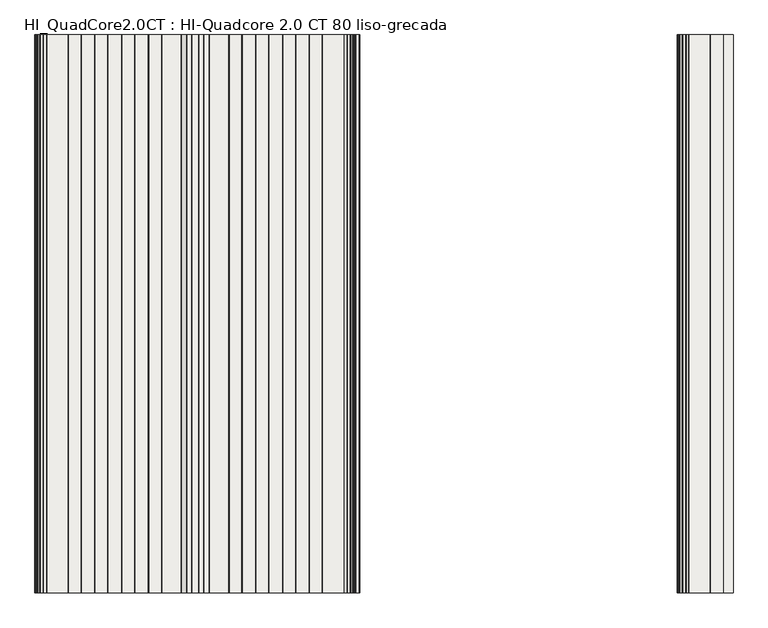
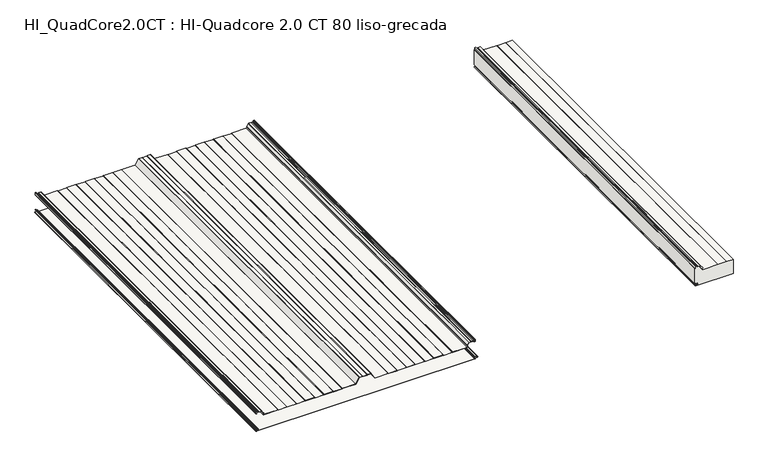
"""IFC4 building model written with IfcOpenShell, lengths in millimetres: slab geometry, HI_QuadCore2.0CT : HI-Quadcore 2.0 CT 80 liso-grecada."""

from ifc_helpers import new_model, si_unit, point, frame, frame_2d, origin, place, context, project, spatial, polyline, circle_curve, trimmed, segment, composite_curve, outline, extrude, source, transform, mapped, element, save
from ifc_brep_helpers import plane_surface, cylinder_surface, revolved_surface, advanced_brep


def hi_quadcore2_0ct_hi_quadcore_2_0_ct_80_liso_grecada_cbc21f39(model_context):
    return source(origin(), model_context, "Body", "SolidModel", [
        advanced_brep(
        [(2305.1475465, 0.0, 95.7425833), (2301.3824194, 0.0, 97.9163804), (2300.0, 0.0, 97.9163804), (2300.0, 0.0, 16.239302), (2307.510215, 0.0, 16.239302), (2307.510215, 0.0, 15.4391074), (2303.6125693, 0.0, 15.4391074), (2302.4319301, 0.0, 14.2584682), (2303.4276302, 0.0, 13.0866965), (2311.8278581, 0.0, 11.7547343), (2311.7995989, 0.0, 4.4809044), (2301.8467032, 0.0, 2.9844289), (2302.0100062, 0.0, 0.8), (2500.0, 0.0, 0.8), (2500.0, 0.0, 79.2), (2467.3816122, 0.0, 79.2), (2465.6495614, 0.0, 78.2), (2420.6152775, 0.0, 78.2), (2418.8832267, 0.0, 79.2), (2342.7795617, 0.0, 79.2), (2339.9577511, 0.0, 86.2744555), (2340.9081159, 0.0, 87.0692788), (2341.1089583, 0.0, 88.5361221), (2331.7709236, 0.0, 102.1230469), (2330.8643848, 0.0, 102.6), (2321.5371875, 0.0, 102.6), (2319.8324194, 0.0, 101.8110374), (2318.1276514, 0.0, 102.6), (2311.4016791, 0.0, 102.6), (2309.2490397, 0.0, 104.0383476), (2307.3922843, 0.0, 108.5209518), (2306.3760168, 0.0, 109.2), (2302.7824194, 0.0, 109.2), (2301.6824194, 0.0, 108.1), (2301.6824194, 0.0, 98.6669358), (2305.5475465, 0.0, 96.4354036), (2305.1475465, 2000.0, 95.7425833), (2305.5475465, 2000.0, 96.4354036), (2301.6824194, 2000.0, 98.6669358), (2301.6824194, 2000.0, 108.1), (2302.7824194, 2000.0, 109.2), (2306.3760168, 2000.0, 109.2), (2307.3922843, 2000.0, 108.5209518), (2309.2490397, 2000.0, 104.0383476), (2311.4016791, 2000.0, 102.6), (2318.1276514, 2000.0, 102.6), (2319.8324194, 2000.0, 101.8110374), (2321.5371875, 2000.0, 102.6), (2330.8643848, 2000.0, 102.6), (2331.7709236, 2000.0, 102.1230469), (2341.1089583, 2000.0, 88.5361221), (2340.9081159, 2000.0, 87.0692788), (2339.9577511, 2000.0, 86.2744555), (2342.7795617, 2000.0, 79.2), (2418.8832267, 2000.0, 79.2), (2420.6152775, 2000.0, 78.2), (2465.6495614, 2000.0, 78.2), (2467.3816122, 2000.0, 79.2), (2500.0, 2000.0, 79.2), (2500.0, 2000.0, 0.8), (2302.0100062, 2000.0, 0.8), (2301.8467032, 2000.0, 2.9844289), (2311.7995989, 2000.0, 4.4809044), (2311.8278581, 2000.0, 11.7547343), (2303.4273037, 2000.0, 13.0846342), (2302.4319301, 2000.0, 14.2584682), (2303.6125693, 2000.0, 15.4391074), (2307.510215, 2000.0, 15.4391074), (2307.510215, 2000.0, 16.239302), (2300.0, 2000.0, 16.239302), (2300.0, 2000.0, 97.9163804), (2301.3824194, 2000.0, 97.9163804)],
        [
            (0, 1),
            (1, 2),
            (2, 3),
            (3, 4),
            (4, 5),
            (5, 6),
            (6, 7, circle_curve(frame((2303.6125693, 0.0, 14.2584682), z_axis=(0.0, -1.0, 0.0), x_axis=(1.0, 0.0, 0.0)), 1.1806391)),
            (7, 8, circle_curve(frame((2303.6121809, 0.0, 14.2524448), z_axis=(0.0, -1.0, 0.0), x_axis=(1.0, 0.0, 0.0)), 1.1802661)),
            (8, 9),
            (9, 10, circle_curve(frame((2311.2524398, 0.0, 8.12), z_axis=(0.0, 1.0, 0.0), x_axis=(1.0, 0.0, 0.0)), 3.68)),
            (10, 11),
            (11, 12, circle_curve(frame((2302.0100062, 0.0, 1.8983185), z_axis=(0.0, -1.0, 0.0), x_axis=(1.0, 0.0, 0.0)), 1.0983185)),
            (12, 13),
            (13, 14),
            (14, 15),
            (15, 16),
            (16, 17),
            (17, 18),
            (18, 19),
            (19, 20, circle_curve(frame((2342.7795617, 0.0, 83.3), z_axis=(0.0, 1.0, 0.0), x_axis=(1.0, 0.0, 0.0)), 4.1)),
            (20, 21),
            (21, 22, circle_curve(frame((2340.2024195, 0.0, 87.9130752), z_axis=(0.0, -1.0, 0.0), x_axis=(1.0, 0.0, 0.0)), 1.1)),
            (22, 23),
            (23, 24, circle_curve(frame((2330.8643848, 0.0, 101.5), z_axis=(0.0, -1.0, 0.0), x_axis=(1.0, 0.0, 0.0)), 1.1)),
            (24, 25),
            (25, 26),
            (26, 27),
            (27, 28),
            (28, 29, circle_curve(frame((2311.4016791, 0.0, 104.93), z_axis=(0.0, 1.0, 0.0), x_axis=(1.0, 0.0, 0.0)), 2.33)),
            (29, 30),
            (30, 31, circle_curve(frame((2306.3760168, 0.0, 108.1), z_axis=(0.0, -1.0, 0.0), x_axis=(1.0, 0.0, 0.0)), 1.1)),
            (31, 32),
            (32, 33, circle_curve(frame((2302.7824194, 0.0, 108.1), z_axis=(0.0, -1.0, 0.0), x_axis=(1.0, 0.0, 0.0)), 1.1)),
            (33, 34),
            (34, 35),
            (35, 0),
            (36, 37),
            (37, 38),
            (38, 39),
            (39, 40, circle_curve(frame((2302.7824194, 2000.0, 108.1), z_axis=(0.0, 1.0, 0.0), x_axis=(1.0, 0.0, 0.0)), 1.1)),
            (40, 41),
            (41, 42, circle_curve(frame((2306.3760168, 2000.0, 108.1), z_axis=(0.0, 1.0, 0.0), x_axis=(1.0, 0.0, 0.0)), 1.1)),
            (42, 43),
            (43, 44, circle_curve(frame((2311.4016791, 2000.0, 104.93), z_axis=(0.0, -1.0, 0.0), x_axis=(1.0, 0.0, 0.0)), 2.33)),
            (44, 45),
            (45, 46),
            (46, 47),
            (47, 48),
            (48, 49, circle_curve(frame((2330.8643848, 2000.0, 101.5), z_axis=(0.0, 1.0, 0.0), x_axis=(1.0, 0.0, 0.0)), 1.1)),
            (49, 50),
            (50, 51, circle_curve(frame((2340.2024195, 2000.0, 87.9130752), z_axis=(0.0, 1.0, 0.0), x_axis=(1.0, 0.0, 0.0)), 1.1)),
            (51, 52),
            (52, 53, circle_curve(frame((2342.7795617, 2000.0, 83.3), z_axis=(0.0, -1.0, 0.0), x_axis=(1.0, 0.0, 0.0)), 4.1)),
            (53, 54),
            (54, 55),
            (55, 56),
            (56, 57),
            (57, 58),
            (58, 59),
            (59, 60),
            (60, 61, circle_curve(frame((2302.0100062, 2000.0, 1.8983185), z_axis=(0.0, 1.0, 0.0), x_axis=(1.0, 0.0, 0.0)), 1.0983185)),
            (61, 62),
            (62, 63, circle_curve(frame((2311.2524398, 2000.0, 8.12), z_axis=(0.0, -1.0, 0.0), x_axis=(1.0, 0.0, 0.0)), 3.68)),
            (63, 64),
            (64, 65, circle_curve(frame((2303.6121809, 2000.0, 14.2524448), z_axis=(0.0, 1.0, 0.0), x_axis=(1.0, 0.0, 0.0)), 1.1802661)),
            (65, 66, circle_curve(frame((2303.6125693, 2000.0, 14.2584682), z_axis=(0.0, 1.0, 0.0), x_axis=(1.0, 0.0, 0.0)), 1.1806391)),
            (66, 67),
            (67, 68),
            (68, 69),
            (69, 70),
            (70, 71),
            (71, 36),
            (0, 36),
            (71, 1),
            (70, 2),
            (69, 3),
            (57, 15),
            (14, 58),
            (56, 16),
            (55, 17),
            (54, 18),
            (53, 19),
            (52, 20),
            (51, 21),
            (50, 22),
            (49, 23),
            (48, 24),
            (47, 25),
            (46, 26),
            (45, 27),
            (44, 28),
            (43, 29),
            (42, 30),
            (41, 31),
            (40, 32),
            (39, 33),
            (38, 34),
            (37, 35),
            (68, 4),
            (67, 5),
            (66, 6),
            (65, 7),
            (64, 8),
            (63, 9),
            (62, 10),
            (61, 11),
            (60, 12),
            (59, 13),
        ],
        [
            plane_surface(frame((2301.3824194, 0.0, 97.9163804), z_axis=(0.0, -1.0, 0.0), x_axis=(-0.8660254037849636, 0.0, 0.4999999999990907))),
            plane_surface(frame((2301.3824194, 2000.0, 97.9163804), z_axis=(0.0, 1.0, 0.0), x_axis=(0.8660254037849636, 0.0, -0.4999999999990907))),
            plane_surface(frame((2305.1475465, 0.0, 95.7425833), z_axis=(0.4999999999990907, 0.0, 0.8660254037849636), x_axis=(0.0, 1.0, 0.0))),
            plane_surface(frame((2301.3824194, 0.0, 97.9163804), z_axis=(0.0, 0.0, 1.0), x_axis=(0.0, 1.0, 0.0))),
            plane_surface(frame((2300.0, 0.0, 97.9163804), z_axis=(-1.0, 0.0, 0.0), x_axis=(0.0, 1.0, 0.0))),
            plane_surface(frame((2514.8832267, 0.0, 79.2), z_axis=(0.0, 0.0, 1.0), x_axis=(0.0, 1.0, 0.0))),
            plane_surface(frame((2467.3816122, 0.0, 79.2), z_axis=(-0.5000000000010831, 0.0, 0.8660254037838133), x_axis=(0.0, 1.0, 0.0))),
            plane_surface(frame((2465.6495614, 0.0, 78.2), z_axis=(0.0, 0.0, 1.0), x_axis=(0.0, 1.0, 0.0))),
            plane_surface(frame((2420.6152775, 0.0, 78.2), z_axis=(0.4999999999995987, 0.0, 0.8660254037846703), x_axis=(0.0, 1.0, 0.0))),
            plane_surface(frame((2418.8832267, 0.0, 79.2), z_axis=(0.0, 0.0, 1.0), x_axis=(0.0, 1.0, 0.0))),
            revolved_surface(polyline([(2346.8795617, 2000.0, 83.3), (2346.8795617, 0.0, 83.3)]), (2342.7795617, 2000.0, 83.3), (0.0, 1.0, 0.0)),
            plane_surface(frame((2339.9577511, 0.0, 86.2744555), z_axis=(0.6415422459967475, 0.0, -0.7670877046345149), x_axis=(0.0, 1.0, 0.0))),
            cylinder_surface(frame((2340.2024195, 2000.0, 87.9130752), z_axis=(0.0, -1.0, 0.0), x_axis=(1.0, 0.0, 0.0)), 1.1),
            plane_surface(frame((2341.1089583, 0.0, 88.5361221), z_axis=(0.8241261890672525, 0.0, 0.5664062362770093), x_axis=(0.0, 1.0, 0.0))),
            cylinder_surface(frame((2330.8643848, 2000.0, 101.5), z_axis=(0.0, -1.0, 0.0), x_axis=(1.0, 0.0, 0.0)), 1.1),
            plane_surface(frame((2330.8643848, 0.0, 102.6), z_axis=(0.0, 0.0, 1.0), x_axis=(0.0, 1.0, 0.0))),
            plane_surface(frame((2321.5371875, 0.0, 102.6), z_axis=(-0.41999999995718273, 0.0, 0.9075241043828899), x_axis=(0.0, 1.0, 0.0))),
            plane_surface(frame((2319.8324194, 0.0, 101.8110374), z_axis=(0.4200000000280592, 0.0, 0.9075241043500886), x_axis=(0.0, 1.0, 0.0))),
            plane_surface(frame((2318.1276514, 0.0, 102.6), z_axis=(0.0, 0.0, 1.0), x_axis=(0.0, 1.0, 0.0))),
            revolved_surface(polyline([(2313.7316791, 2000.0, 104.93), (2313.7316791, 0.0, 104.93)]), (2311.4016791, 2000.0, 104.93), (0.0, 1.0, 0.0)),
            plane_surface(frame((2309.2490397, 0.0, 104.0383476), z_axis=(0.9238795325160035, 0.0, 0.38268343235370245), x_axis=(0.0, 1.0, 0.0))),
            cylinder_surface(frame((2306.3760168, 2000.0, 108.1), z_axis=(0.0, -1.0, 0.0), x_axis=(1.0, 0.0, 0.0)), 1.1),
            plane_surface(frame((2306.3760168, 0.0, 109.2), z_axis=(0.0, 0.0, 1.0), x_axis=(0.0, 1.0, 0.0))),
            cylinder_surface(frame((2302.7824194, 2000.0, 108.1), z_axis=(0.0, -1.0, 0.0), x_axis=(1.0, 0.0, 0.0)), 1.1),
            plane_surface(frame((2301.6824194, 0.0, 108.1), z_axis=(-1.0, 0.0, 0.0), x_axis=(0.0, 1.0, 0.0))),
            plane_surface(frame((2301.6824194, 0.0, 98.6669358), z_axis=(-0.49999999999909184, 0.0, -0.866025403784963), x_axis=(0.0, 1.0, 0.0))),
            plane_surface(frame((2305.5475465, 0.0, 96.4354036), z_axis=(-0.866025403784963, 0.0, 0.4999999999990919), x_axis=(0.0, 1.0, 0.0))),
            plane_surface(frame((2300.0, 0.0, 16.239302), z_axis=(0.0, 0.0, -1.0), x_axis=(0.0, 1.0, 0.0))),
            plane_surface(frame((2307.510215, 0.0, 16.239302), z_axis=(-1.0, 0.0, 0.0), x_axis=(0.0, 1.0, 0.0))),
            plane_surface(frame((2307.510215, 0.0, 15.4391074), z_axis=(0.0, 0.0, 1.0), x_axis=(0.0, 1.0, 0.0))),
            cylinder_surface(frame((2303.6125693, 2000.0, 14.2584682), z_axis=(0.0, -1.0, 0.0), x_axis=(1.0, 0.0, 0.0)), 1.1806391),
            cylinder_surface(frame((2303.6121809, 2000.0, 14.2524448), z_axis=(0.0, -1.0, 0.0), x_axis=(1.0, 0.0, 0.0)), 1.1802661),
            plane_surface(frame((2303.4273037, 0.0, 13.0846342), z_axis=(-0.1563636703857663, 0.0, -0.9876995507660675), x_axis=(0.0, 1.0, 0.0))),
            revolved_surface(polyline([(2314.9324398, 2000.0, 8.12), (2314.9324398, 0.0, 8.12)]), (2311.2524398, 2000.0, 8.12), (0.0, 1.0, 0.0)),
            plane_surface(frame((2311.7995989, 0.0, 4.4809044), z_axis=(-0.14868453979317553, 0.0, 0.9888846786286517), x_axis=(0.0, 1.0, 0.0))),
            cylinder_surface(frame((2302.0100062, 2000.0, 1.8983185), z_axis=(0.0, -1.0, 0.0), x_axis=(1.0, 0.0, 0.0)), 1.0983185),
            plane_surface(frame((2302.0100062, 0.0, 0.8), z_axis=(0.0, 0.0, -1.0), x_axis=(0.0, 1.0, 0.0))),
            plane_surface(frame((2500.0, 0.0, 126.2714688), z_axis=(1.0, 0.0, 0.0), x_axis=(0.0, 1.0, 0.0))),
        ],
        [
            (0, [[1, 2, 3, 4, 5, 6, 7, 8, 9, 10, 11, 12, 13, 14, 15, 16, 17, 18, 19, 20, 21, 22, 23, 24, 25, 26, 27, 28, 29, 30, 31, 32, 33, 34, 35, 36]]),
            (1, [[37, 38, 39, 40, 41, 42, 43, 44, 45, 46, 47, 48, 49, 50, 51, 52, 53, 54, 55, 56, 57, 58, 59, 60, 61, 62, 63, 64, 65, 66, 67, 68, 69, 70, 71, 72]]),
            (2, [[-1, 73, -72, 74]]),
            (3, [[-2, -74, -71, 75]]),
            (4, [[-75, -70, 76, -3]]),
            (5, [[77, -15, 78, -58]]),
            (6, [[-16, -77, -57, 79]]),
            (7, [[-17, -79, -56, 80]]),
            (8, [[-18, -80, -55, 81]]),
            (9, [[-19, -81, -54, 82]]),
            (10, [[-20, -82, -53, 83]]),
            (11, [[-21, -83, -52, 84]]),
            (12, [[-22, -84, -51, 85]]),
            (13, [[-23, -85, -50, 86]]),
            (14, [[-24, -86, -49, 87]]),
            (15, [[-25, -87, -48, 88]]),
            (16, [[-26, -88, -47, 89]]),
            (17, [[-27, -89, -46, 90]]),
            (18, [[-28, -90, -45, 91]]),
            (19, [[-29, -91, -44, 92]]),
            (20, [[-30, -92, -43, 93]]),
            (21, [[-31, -93, -42, 94]]),
            (22, [[-32, -94, -41, 95]]),
            (23, [[-33, -95, -40, 96]]),
            (24, [[-34, -96, -39, 97]]),
            (25, [[-35, -97, -38, 98]]),
            (26, [[-36, -98, -37, -73]]),
            (27, [[-76, -69, 99, -4]]),
            (28, [[-5, -99, -68, 100]]),
            (29, [[-6, -100, -67, 101]]),
            (30, [[-7, -101, -66, 102]]),
            (31, [[-8, -102, -65, 103]]),
            (32, [[-9, -103, -64, 104]]),
            (33, [[-10, -104, -63, 105]]),
            (34, [[-11, -105, -62, 106]]),
            (35, [[-12, -106, -61, 107]]),
            (36, [[-107, -60, 108, -13]]),
            (37, [[-14, -108, -59, -78]]),
        ],
    ),
        advanced_brep(
        [(3.6125412, 0.0, 16.239302), (1.6320413, 0.0, 14.2588021), (3.3026044, 0.0, 12.2960661), (11.7027672, 0.0, 10.9645747), (11.6806488, 0.0, 5.2720118), (1.7277556, 0.0, 3.7755366), (2.0100062, 0.0, 0.0), (1147.9590685, 0.0, 0.0), (1150.1391392, 0.0, 2.1800708), (1152.6636211, 0.0, 5.0353254), (1160.9083654, 0.0, 6.0356531), (1160.9083654, 0.0, 10.2043469), (1150.9419234, 0.0, 11.413338), (1148.6324398, 0.0, 14.0237344), (1147.5187526, 0.0, 16.24), (1142.7624398, 0.0, 16.24), (1142.7624398, 0.0, 15.44), (1147.2282701, 0.0, 15.44), (1147.8324398, 0.0, 14.0237344), (1150.8450446, 0.0, 10.6192254), (1160.7843299, 0.0, 9.4135286), (1160.7843221, 0.0, 6.8264698), (1152.5664905, 0.0, 5.8294074), (1149.3391392, 0.0, 2.1800708), (1147.9590685, 0.0, 0.8), (2.0100062, 0.0, 0.8), (1.8467032, 0.0, 2.9844289), (11.7995989, 0.0, 4.4809044), (11.8278581, 0.0, 11.7547343), (3.4279307, 0.0, 13.084535), (2.4319301, 0.0, 14.2584682), (3.6125693, 0.0, 15.4391074), (7.510215, 0.0, 15.4391074), (7.510215, 0.0, 16.239302), (3.6125412, 2000.0, 16.239302), (7.510215, 2000.0, 16.239302), (7.510215, 2000.0, 15.4391074), (3.6125693, 2000.0, 15.4391074), (2.4319301, 2000.0, 14.2584682), (3.4276302, 2000.0, 13.0866965), (11.8278581, 2000.0, 11.7547343), (11.7995989, 2000.0, 4.4809044), (1.8467032, 2000.0, 2.9844289), (2.0100062, 2000.0, 0.8), (1147.9590685, 2000.0, 0.8), (1149.3391392, 2000.0, 2.1800708), (1152.5664905, 2000.0, 5.8294074), (1160.7843221, 2000.0, 6.8264698), (1160.7843299, 2000.0, 9.4135286), (1150.8450446, 2000.0, 10.6192254), (1147.8324398, 2000.0, 14.0237344), (1147.2282701, 2000.0, 15.44), (1142.7624398, 2000.0, 15.44), (1142.7624398, 2000.0, 16.24), (1147.5187526, 2000.0, 16.24), (1148.6324398, 2000.0, 14.0237344), (1150.9419234, 2000.0, 11.413338), (1160.9083654, 2000.0, 10.2043469), (1160.9083654, 2000.0, 6.0356531), (1152.6636211, 2000.0, 5.0353254), (1150.1391392, 2000.0, 2.1800708), (1147.9590685, 2000.0, 0.0), (2.0100062, 2000.0, 0.0), (1.7277556, 2000.0, 3.7755366), (11.6806488, 2000.0, 5.2720118), (11.7027672, 2000.0, 10.9645747), (3.3028397, 2000.0, 12.2943753), (1.6320413, 2000.0, 14.2588021)],
        [
            (0, 1, circle_curve(frame((3.6125412, 0.0, 14.2588021), z_axis=(0.0, -1.0, 0.0), x_axis=(1.0, 0.0, 0.0)), 1.9804999)),
            (1, 2, circle_curve(frame((3.612237, 0.0, 14.2519163), z_axis=(0.0, -1.0, 0.0), x_axis=(1.0, 0.0, 0.0)), 1.9802076)),
            (2, 3),
            (3, 4, circle_curve(frame((11.2524398, 0.0, 8.12), z_axis=(0.0, 1.0, 0.0), x_axis=(1.0, 0.0, 0.0)), 2.88)),
            (4, 5),
            (5, 6, circle_curve(frame((2.0100062, 0.0, 1.8983185), z_axis=(0.0, -1.0, 0.0), x_axis=(1.0, 0.0, 0.0)), 1.8983185)),
            (6, 7),
            (7, 8, circle_curve(frame((1147.9590685, 0.0, 2.1800708), z_axis=(0.0, -1.0, 0.0), x_axis=(1.0, 0.0, 0.0)), 2.1800708)),
            (8, 9, circle_curve(frame((1153.0160638, 0.0, 2.1800708), z_axis=(0.0, 1.0, 0.0), x_axis=(1.0, 0.0, 0.0)), 2.8769246)),
            (9, 10),
            (10, 11, circle_curve(frame((1160.5224398, 0.0, 8.12), z_axis=(0.0, -1.0, 0.0), x_axis=(1.0, 0.0, 0.0)), 2.1197737)),
            (11, 12),
            (12, 13, circle_curve(frame((1151.2624398, 0.0, 14.0237344), z_axis=(0.0, 1.0, 0.0), x_axis=(1.0, 0.0, 0.0)), 2.63)),
            (13, 14, circle_curve(frame((1145.8703839, 0.0, 14.0237344), z_axis=(0.0, -1.0, 0.0), x_axis=(1.0, 0.0, 0.0)), 2.7620559)),
            (14, 15),
            (15, 16),
            (16, 17),
            (17, 18, circle_curve(frame((1145.8703839, 0.0, 14.0237344), z_axis=(0.0, 1.0, 0.0), x_axis=(1.0, 0.0, 0.0)), 1.9620559)),
            (18, 19, circle_curve(frame((1151.2624398, 0.0, 14.0237344), z_axis=(0.0, -1.0, 0.0), x_axis=(1.0, 0.0, 0.0)), 3.43)),
            (19, 20),
            (20, 21, circle_curve(frame((1160.5224398, 0.0, 8.12), z_axis=(0.0, 1.0, 0.0), x_axis=(1.0, 0.0, 0.0)), 1.3197737)),
            (21, 22),
            (22, 23, circle_curve(frame((1153.0160638, 0.0, 2.1800708), z_axis=(0.0, -1.0, 0.0), x_axis=(1.0, 0.0, 0.0)), 3.6769246)),
            (23, 24, circle_curve(frame((1147.9590685, 0.0, 2.1800708), z_axis=(0.0, 1.0, 0.0), x_axis=(1.0, 0.0, 0.0)), 1.3800708)),
            (24, 25),
            (25, 26, circle_curve(frame((2.0100062, 0.0, 1.8983185), z_axis=(0.0, 1.0, 0.0), x_axis=(1.0, 0.0, 0.0)), 1.0983185)),
            (26, 27),
            (27, 28, circle_curve(frame((11.2524398, 0.0, 8.12), z_axis=(0.0, -1.0, 0.0), x_axis=(1.0, 0.0, 0.0)), 3.68)),
            (28, 29),
            (29, 30, circle_curve(frame((3.6121809, 0.0, 14.2524448), z_axis=(0.0, 1.0, 0.0), x_axis=(1.0, 0.0, 0.0)), 1.1802661)),
            (30, 31, circle_curve(frame((3.6125693, 0.0, 14.2584682), z_axis=(0.0, 1.0, 0.0), x_axis=(1.0, 0.0, 0.0)), 1.1806391)),
            (31, 32),
            (32, 33),
            (33, 0),
            (34, 35),
            (35, 36),
            (36, 37),
            (37, 38, circle_curve(frame((3.6125693, 2000.0, 14.2584682), z_axis=(0.0, -1.0, 0.0), x_axis=(1.0, 0.0, 0.0)), 1.1806391)),
            (38, 39, circle_curve(frame((3.6121809, 2000.0, 14.2524448), z_axis=(0.0, -1.0, 0.0), x_axis=(1.0, 0.0, 0.0)), 1.1802661)),
            (39, 40),
            (40, 41, circle_curve(frame((11.2524398, 2000.0, 8.12), z_axis=(0.0, 1.0, 0.0), x_axis=(1.0, 0.0, 0.0)), 3.68)),
            (41, 42),
            (42, 43, circle_curve(frame((2.0100062, 2000.0, 1.8983185), z_axis=(0.0, -1.0, 0.0), x_axis=(1.0, 0.0, 0.0)), 1.0983185)),
            (43, 44),
            (44, 45, circle_curve(frame((1147.9590685, 2000.0, 2.1800708), z_axis=(0.0, -1.0, 0.0), x_axis=(1.0, 0.0, 0.0)), 1.3800708)),
            (45, 46, circle_curve(frame((1153.0160638, 2000.0, 2.1800708), z_axis=(0.0, 1.0, 0.0), x_axis=(1.0, 0.0, 0.0)), 3.6769246)),
            (46, 47),
            (47, 48, circle_curve(frame((1160.5224398, 2000.0, 8.12), z_axis=(0.0, -1.0, 0.0), x_axis=(1.0, 0.0, 0.0)), 1.3197737)),
            (48, 49),
            (49, 50, circle_curve(frame((1151.2624398, 2000.0, 14.0237344), z_axis=(0.0, 1.0, 0.0), x_axis=(1.0, 0.0, 0.0)), 3.43)),
            (50, 51, circle_curve(frame((1145.8703839, 2000.0, 14.0237344), z_axis=(0.0, -1.0, 0.0), x_axis=(1.0, 0.0, 0.0)), 1.9620559)),
            (51, 52),
            (52, 53),
            (53, 54),
            (54, 55, circle_curve(frame((1145.8703839, 2000.0, 14.0237344), z_axis=(0.0, 1.0, 0.0), x_axis=(1.0, 0.0, 0.0)), 2.7620559)),
            (55, 56, circle_curve(frame((1151.2624398, 2000.0, 14.0237344), z_axis=(0.0, -1.0, 0.0), x_axis=(1.0, 0.0, 0.0)), 2.63)),
            (56, 57),
            (57, 58, circle_curve(frame((1160.5224398, 2000.0, 8.12), z_axis=(0.0, 1.0, 0.0), x_axis=(1.0, 0.0, 0.0)), 2.1197737)),
            (58, 59),
            (59, 60, circle_curve(frame((1153.0160638, 2000.0, 2.1800708), z_axis=(0.0, -1.0, 0.0), x_axis=(1.0, 0.0, 0.0)), 2.8769246)),
            (60, 61, circle_curve(frame((1147.9590685, 2000.0, 2.1800708), z_axis=(0.0, 1.0, 0.0), x_axis=(1.0, 0.0, 0.0)), 2.1800708)),
            (61, 62),
            (62, 63, circle_curve(frame((2.0100062, 2000.0, 1.8983185), z_axis=(0.0, 1.0, 0.0), x_axis=(1.0, 0.0, 0.0)), 1.8983185)),
            (63, 64),
            (64, 65, circle_curve(frame((11.2524398, 2000.0, 8.12), z_axis=(0.0, -1.0, 0.0), x_axis=(1.0, 0.0, 0.0)), 2.88)),
            (65, 66),
            (66, 67, circle_curve(frame((3.612237, 2000.0, 14.2519163), z_axis=(0.0, 1.0, 0.0), x_axis=(1.0, 0.0, 0.0)), 1.9802076)),
            (67, 34, circle_curve(frame((3.6125412, 2000.0, 14.2588021), z_axis=(0.0, 1.0, 0.0), x_axis=(1.0, 0.0, 0.0)), 1.9804999)),
            (0, 34),
            (67, 1),
            (66, 2),
            (65, 3),
            (64, 4),
            (63, 5),
            (62, 6),
            (61, 7),
            (60, 8),
            (59, 9),
            (58, 10),
            (57, 11),
            (56, 12),
            (55, 13),
            (54, 14),
            (53, 15),
            (52, 16),
            (51, 17),
            (50, 18),
            (49, 19),
            (48, 20),
            (47, 21),
            (46, 22),
            (45, 23),
            (44, 24),
            (43, 25),
            (42, 26),
            (41, 27),
            (40, 28),
            (39, 29),
            (38, 30),
            (37, 31),
            (36, 32),
            (35, 33),
        ],
        [
            plane_surface(frame((5.5930411, 0.0, 14.2588021), z_axis=(0.0, -1.0, 0.0), x_axis=(0.0, 0.0, 1.0))),
            plane_surface(frame((5.5930411, 2000.0, 14.2588021), z_axis=(0.0, 1.0, 0.0), x_axis=(0.0, 0.0, -1.0))),
            cylinder_surface(frame((3.6125412, 2000.0, 14.2588021), z_axis=(0.0, -1.0, 0.0), x_axis=(1.0, 0.0, 0.0)), 1.9804999),
            cylinder_surface(frame((3.612237, 2000.0, 14.2519163), z_axis=(0.0, -1.0, 0.0), x_axis=(1.0, 0.0, 0.0)), 1.9802076),
            plane_surface(frame((3.3028397, 0.0, 12.2943753), z_axis=(-0.15636367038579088, 0.0, -0.9876995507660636), x_axis=(0.0, 1.0, 0.0))),
            revolved_surface(polyline([(14.1324398, 2000.0, 8.12), (14.1324398, 0.0, 8.12)]), (11.2524398, 2000.0, 8.12), (0.0, 1.0, 0.0)),
            plane_surface(frame((11.6806488, 0.0, 5.2720118), z_axis=(-0.14868453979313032, 0.0, 0.9888846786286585), x_axis=(0.0, 1.0, 0.0))),
            cylinder_surface(frame((2.0100062, 2000.0, 1.8983185), z_axis=(0.0, -1.0, 0.0), x_axis=(1.0, 0.0, 0.0)), 1.8983185),
            plane_surface(frame((2.0100062, 0.0, 0.0), z_axis=(0.0, 0.0, -1.0), x_axis=(0.0, 1.0, 0.0))),
            cylinder_surface(frame((1147.9590685, 2000.0, 2.1800708), z_axis=(0.0, -1.0, 0.0), x_axis=(1.0, 0.0, 0.0)), 2.1800708),
            revolved_surface(polyline([(1155.8929884, 2000.0, 2.1800708), (1155.8929884, 0.0, 2.1800708)]), (1153.0160638, 2000.0, 2.1800708), (0.0, 1.0, 0.0)),
            plane_surface(frame((1152.6636211, 0.0, 5.0353254), z_axis=(0.12044584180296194, 0.0, -0.9927198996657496), x_axis=(0.0, 1.0, 0.0))),
            cylinder_surface(frame((1160.5224398, 2000.0, 8.12), z_axis=(0.0, -1.0, 0.0), x_axis=(1.0, 0.0, 0.0)), 2.1197737),
            plane_surface(frame((1160.9083654, 0.0, 10.2043469), z_axis=(0.12042339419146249, 0.0, 0.9927226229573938), x_axis=(0.0, 1.0, 0.0))),
            revolved_surface(polyline([(1153.8924398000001, 2000.0, 14.0237344), (1153.8924398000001, 0.0, 14.0237344)]), (1151.2624398, 2000.0, 14.0237344), (0.0, 1.0, 0.0)),
            cylinder_surface(frame((1145.8703839, 2000.0, 14.0237344), z_axis=(0.0, -1.0, 0.0), x_axis=(1.0, 0.0, 0.0)), 2.7620559),
            plane_surface(frame((1147.5187526, 0.0, 16.24), z_axis=(0.0, 0.0, 1.0), x_axis=(0.0, 1.0, 0.0))),
            plane_surface(frame((1142.7624398, 0.0, 16.24), z_axis=(-1.0, 0.0, 0.0), x_axis=(0.0, 1.0, 0.0))),
            plane_surface(frame((1142.7624398, 0.0, 15.44), z_axis=(0.0, 0.0, -1.0), x_axis=(0.0, 1.0, 0.0))),
            revolved_surface(polyline([(1147.8324398, 2000.0, 14.0237344), (1147.8324398, 0.0, 14.0237344)]), (1145.8703839, 2000.0, 14.0237344), (0.0, 1.0, 0.0)),
            cylinder_surface(frame((1151.2624398, 2000.0, 14.0237344), z_axis=(0.0, -1.0, 0.0), x_axis=(1.0, 0.0, 0.0)), 3.43),
            plane_surface(frame((1150.8450446, 0.0, 10.6192254), z_axis=(-0.12042339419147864, 0.0, -0.9927226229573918), x_axis=(0.0, 1.0, 0.0))),
            revolved_surface(polyline([(1161.8422135, 2000.0, 8.12), (1161.8422135, 0.0, 8.12)]), (1160.5224398, 2000.0, 8.12), (0.0, 1.0, 0.0)),
            plane_surface(frame((1160.7843221, 0.0, 6.8264698), z_axis=(-0.12044584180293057, 0.0, 0.9927198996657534), x_axis=(0.0, 1.0, 0.0))),
            cylinder_surface(frame((1153.0160638, 2000.0, 2.1800708), z_axis=(0.0, -1.0, 0.0), x_axis=(1.0, 0.0, 0.0)), 3.6769246),
            revolved_surface(polyline([(1149.3391393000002, 2000.0, 2.1800708), (1149.3391393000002, 0.0, 2.1800708)]), (1147.9590685, 2000.0, 2.1800708), (0.0, 1.0, 0.0)),
            plane_surface(frame((1147.9590685, 0.0, 0.8), z_axis=(0.0, 0.0, 1.0), x_axis=(0.0, 1.0, 0.0))),
            revolved_surface(polyline([(3.1083247, 2000.0, 1.8983185), (3.1083247, 0.0, 1.8983185)]), (2.0100062, 2000.0, 1.8983185), (0.0, 1.0, 0.0)),
            plane_surface(frame((1.8467032, 0.0, 2.9844289), z_axis=(0.14868453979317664, 0.0, -0.9888846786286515), x_axis=(0.0, 1.0, 0.0))),
            cylinder_surface(frame((11.2524398, 2000.0, 8.12), z_axis=(0.0, -1.0, 0.0), x_axis=(1.0, 0.0, 0.0)), 3.68),
            plane_surface(frame((11.8278581, 0.0, 11.7547343), z_axis=(0.15636367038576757, 0.0, 0.9876995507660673), x_axis=(0.0, 1.0, 0.0))),
            revolved_surface(polyline([(4.792447, 2000.0, 14.2524448), (4.792447, 0.0, 14.2524448)]), (3.6121809, 2000.0, 14.2524448), (0.0, 1.0, 0.0)),
            revolved_surface(polyline([(4.7932084, 2000.0, 14.2584682), (4.7932084, 0.0, 14.2584682)]), (3.6125693, 2000.0, 14.2584682), (0.0, 1.0, 0.0)),
            plane_surface(frame((3.6125693, 0.0, 15.4391074), z_axis=(0.0, 0.0, -1.0), x_axis=(0.0, 1.0, 0.0))),
            plane_surface(frame((7.510215, 0.0, 15.4391074), z_axis=(1.0, 0.0, 0.0), x_axis=(0.0, 1.0, 0.0))),
            plane_surface(frame((7.510215, 0.0, 16.239302), z_axis=(0.0, 0.0, 1.0), x_axis=(0.0, 1.0, 0.0))),
        ],
        [
            (0, [[1, 2, 3, 4, 5, 6, 7, 8, 9, 10, 11, 12, 13, 14, 15, 16, 17, 18, 19, 20, 21, 22, 23, 24, 25, 26, 27, 28, 29, 30, 31, 32, 33, 34]]),
            (1, [[35, 36, 37, 38, 39, 40, 41, 42, 43, 44, 45, 46, 47, 48, 49, 50, 51, 52, 53, 54, 55, 56, 57, 58, 59, 60, 61, 62, 63, 64, 65, 66, 67, 68]]),
            (2, [[-1, 69, -68, 70]]),
            (3, [[-2, -70, -67, 71]]),
            (4, [[-3, -71, -66, 72]]),
            (5, [[-4, -72, -65, 73]]),
            (6, [[-5, -73, -64, 74]]),
            (7, [[-6, -74, -63, 75]]),
            (8, [[-7, -75, -62, 76]]),
            (9, [[-8, -76, -61, 77]]),
            (10, [[-9, -77, -60, 78]]),
            (11, [[-10, -78, -59, 79]]),
            (12, [[-11, -79, -58, 80]]),
            (13, [[-12, -80, -57, 81]]),
            (14, [[-13, -81, -56, 82]]),
            (15, [[-14, -82, -55, 83]]),
            (16, [[-15, -83, -54, 84]]),
            (17, [[-16, -84, -53, 85]]),
            (18, [[-17, -85, -52, 86]]),
            (19, [[-18, -86, -51, 87]]),
            (20, [[-19, -87, -50, 88]]),
            (21, [[-20, -88, -49, 89]]),
            (22, [[-21, -89, -48, 90]]),
            (23, [[-22, -90, -47, 91]]),
            (24, [[-23, -91, -46, 92]]),
            (25, [[-24, -92, -45, 93]]),
            (26, [[-25, -93, -44, 94]]),
            (27, [[-26, -94, -43, 95]]),
            (28, [[-27, -95, -42, 96]]),
            (29, [[-28, -96, -41, 97]]),
            (30, [[-29, -97, -40, 98]]),
            (31, [[-30, -98, -39, 99]]),
            (32, [[-31, -99, -38, 100]]),
            (33, [[-32, -100, -37, 101]]),
            (34, [[-33, -101, -36, 102]]),
            (35, [[-34, -102, -35, -69]]),
        ],
    ),
        extrude(outline(composite_curve([segment(polyline([(97.9163804, 1.3824194), (95.7425833, 5.1475465), (96.4354036, 5.5475465), (98.6669358, 1.6824194), (108.1, 1.6824194)]), True, "CONTINUOUS"), segment(trimmed(circle_curve(frame_2d((108.1, 2.7824194)), 1.1), [point((108.1, 1.6824194))], [point((109.2, 2.7824194))], True, "CARTESIAN"), True, "CONTINUOUS"), segment(polyline([(109.2, 2.7824194), (109.2, 6.3760168)]), True, "CONTINUOUS"), segment(trimmed(circle_curve(frame_2d((108.1, 6.3760168)), 1.1), [point((109.2, 6.3760168))], [point((108.5209518, 7.3922843))], True, "CARTESIAN"), True, "CONTINUOUS"), segment(polyline([(108.5209518, 7.3922843), (104.0383476, 9.2490397)]), True, "CONTINUOUS"), segment(trimmed(circle_curve(frame_2d((104.93, 11.4016791)), 2.33), [point((104.0383476, 9.2490397))], [point((102.6, 11.4016791))], False, "CARTESIAN"), True, "CONTINUOUS"), segment(polyline([(102.6, 11.4016791), (102.6, 18.1276514), (101.8110374, 19.8324194), (102.6, 21.5371875), (102.6, 30.8643848)]), True, "CONTINUOUS"), segment(trimmed(circle_curve(frame_2d((101.5, 30.8643848)), 1.1), [point((102.6, 30.8643848))], [point((102.1230469, 31.7709236))], True, "CARTESIAN"), True, "CONTINUOUS"), segment(polyline([(102.1230469, 31.7709236), (88.5361221, 41.1089583)]), True, "CONTINUOUS"), segment(trimmed(circle_curve(frame_2d((87.9130752, 40.2024195)), 1.1), [point((88.5361221, 41.1089583))], [point((87.0692788, 40.9081159))], True, "CARTESIAN"), True, "CONTINUOUS"), segment(polyline([(87.0692788, 40.9081159), (86.2744555, 39.9577511)]), True, "CONTINUOUS"), segment(trimmed(circle_curve(frame_2d((83.3, 42.7795617)), 4.1), [point((86.2744555, 39.9577511))], [point((79.2, 42.7795617))], False, "CARTESIAN"), True, "CONTINUOUS"), segment(polyline([(79.2, 42.7795617), (79.2, 118.8832267), (78.2, 120.6152775), (78.2, 165.6495614), (79.2, 167.3816122), (79.2, 214.8832267), (78.2, 216.6152775), (78.2, 261.6495614), (79.2, 263.3816122), (79.2, 310.8832267), (78.2, 312.6152775), (78.2, 357.6495614), (79.2, 359.3816122), (79.2, 406.8832267), (78.2, 408.6152775), (78.2, 453.6495614), (79.2, 455.3816122), (79.2, 524.3619266)]), True, "CONTINUOUS"), segment(trimmed(circle_curve(frame_2d((81.53, 524.3619266)), 2.33), [point((79.2, 524.3619266))], [point((80.2833287, 526.330355))], False, "CARTESIAN"), True, "CONTINUOUS"), segment(polyline([(80.2833287, 526.330355), (108.6885573, 544.3203331)]), True, "CONTINUOUS"), segment(trimmed(circle_curve(frame_2d((108.1, 545.2496341)), 1.1), [point((108.6885573, 544.3203331))], [point((109.2, 545.2496341))], True, "CARTESIAN"), True, "CONTINUOUS"), segment(polyline([(109.2, 545.2496341), (109.2, 561.3832267), (107.7, 563.9813029), (107.7, 586.283536), (109.2, 588.8816122), (109.2, 605.0152048)]), True, "CONTINUOUS"), segment(trimmed(circle_curve(frame_2d((108.1, 605.0152048)), 1.1), [point((109.2, 605.0152048))], [point((108.6885573, 605.9445057))], True, "CARTESIAN"), True, "CONTINUOUS"), segment(polyline([(108.6885573, 605.9445057), (80.2833287, 623.9344839)]), True, "CONTINUOUS"), segment(trimmed(circle_curve(frame_2d((81.53, 625.9029123)), 2.33), [point((80.2833287, 623.9344839))], [point((79.2, 625.9029123))], False, "CARTESIAN"), True, "CONTINUOUS"), segment(polyline([(79.2, 625.9029123), (79.2, 694.8832267), (78.2, 696.6152775), (78.2, 741.6495614), (79.2, 743.3816122), (79.2, 790.8832267), (78.2, 792.6152775), (78.2, 837.6495614), (79.2, 839.3816122), (79.2, 886.8832267), (78.2, 888.6152775), (78.2, 933.6495614), (79.2, 935.3816122), (79.2, 982.8832267), (78.2, 984.6152775), (78.2, 1029.6495614), (79.2, 1031.3816122), (79.2, 1107.4852773)]), True, "CONTINUOUS"), segment(trimmed(circle_curve(frame_2d((83.3, 1107.4852773)), 4.1), [point((79.2, 1107.4852773))], [point((86.2744554, 1110.3070878))], False, "CARTESIAN"), True, "CONTINUOUS"), segment(polyline([(86.2744554, 1110.3070878), (87.0692788, 1109.356723)]), True, "CONTINUOUS"), segment(trimmed(circle_curve(frame_2d((87.9130753, 1110.0624194)), 1.1), [point((87.0692788, 1109.356723))], [point((88.5361221, 1109.1558806))], True, "CARTESIAN"), True, "CONTINUOUS"), segment(polyline([(88.5361221, 1109.1558806), (102.1230469, 1118.4939153)]), True, "CONTINUOUS"), segment(trimmed(circle_curve(frame_2d((101.5, 1119.4004541)), 1.1), [point((102.1230469, 1118.4939153))], [point((102.6, 1119.4004541))], True, "CARTESIAN"), True, "CONTINUOUS"), segment(polyline([(102.6, 1119.4004541), (102.6, 1128.7276514), (101.8110374, 1130.4324194), (102.6, 1132.1371875), (102.6, 1138.8631598)]), True, "CONTINUOUS"), segment(trimmed(circle_curve(frame_2d((104.93, 1138.8631598)), 2.33), [point((102.6, 1138.8631598))], [point((104.0383476, 1141.0157992))], False, "CARTESIAN"), True, "CONTINUOUS"), segment(polyline([(104.0383476, 1141.0157992), (108.5209518, 1142.8725546)]), True, "CONTINUOUS"), segment(trimmed(circle_curve(frame_2d((108.1, 1143.8888221)), 1.1), [point((108.5209518, 1142.8725546))], [point((109.2, 1143.8888221))], True, "CARTESIAN"), True, "CONTINUOUS"), segment(polyline([(109.2, 1143.8888221), (109.2, 1147.4824194)]), True, "CONTINUOUS"), segment(trimmed(circle_curve(frame_2d((108.1, 1147.4824194)), 1.1), [point((109.2, 1147.4824194))], [point((108.1, 1148.5824194))], True, "CARTESIAN"), True, "CONTINUOUS"), segment(polyline([(108.1, 1148.5824194), (98.6669358, 1148.5824194), (96.4354036, 1144.7172924), (95.7425833, 1145.1172924), (97.9163804, 1148.8824194)]), True, "CONTINUOUS"), segment(trimmed(circle_curve(frame_2d((98.7824058, 1148.3824194)), 1.0), [point((97.9163804, 1148.8824194))], [point((98.7824058, 1149.3824194))], False, "CARTESIAN"), True, "CONTINUOUS"), segment(polyline([(98.7824058, 1149.3824194), (108.1, 1149.3824194)]), True, "CONTINUOUS"), segment(trimmed(circle_curve(frame_2d((108.1, 1147.4824194)), 1.9), [point((108.1, 1149.3824194))], [point((110.0, 1147.4824194))], False, "CARTESIAN"), True, "CONTINUOUS"), segment(polyline([(110.0, 1147.4824194), (110.0, 1143.8888221)]), True, "CONTINUOUS"), segment(trimmed(circle_curve(frame_2d((108.1, 1143.8888221)), 1.9), [point((110.0, 1143.8888221))], [point((108.8270985, 1142.133451))], False, "CARTESIAN"), True, "CONTINUOUS"), segment(polyline([(108.8270985, 1142.133451), (104.3444944, 1140.2766955)]), True, "CONTINUOUS"), segment(trimmed(circle_curve(frame_2d((104.93, 1138.8631598)), 1.53), [point((104.3444944, 1140.2766955))], [point((103.4, 1138.8631598))], True, "CARTESIAN"), True, "CONTINUOUS"), segment(polyline([(103.4, 1138.8631598), (103.4, 1131.9610429), (102.6925567, 1130.4324194), (103.4, 1128.903796), (103.4, 1119.4004541)]), True, "CONTINUOUS"), segment(trimmed(circle_curve(frame_2d((101.5, 1119.4004541)), 1.9), [point((103.4, 1119.4004541))], [point((102.5761719, 1117.8346144))], False, "CARTESIAN"), True, "CONTINUOUS"), segment(polyline([(102.5761719, 1117.8346144), (88.9892471, 1108.4965797)]), True, "CONTINUOUS"), segment(trimmed(circle_curve(frame_2d((87.9130753, 1110.0624194)), 1.9), [point((88.9892471, 1108.4965797))], [point((86.4556086, 1108.8434892))], False, "CARTESIAN"), True, "CONTINUOUS"), segment(polyline([(86.4556086, 1108.8434892), (85.6777166, 1109.7736094)]), True, "CONTINUOUS"), segment(trimmed(circle_curve(frame_2d((83.3, 1107.4852773)), 3.3), [point((85.6777166, 1109.7736094))], [point((80.0, 1107.4852773))], True, "CARTESIAN"), True, "CONTINUOUS"), segment(polyline([(80.0, 1107.4852773), (80.0, 1031.5691766)]), True, "CONTINUOUS"), segment(trimmed(circle_curve(frame_2d((78.5, 1031.5691766)), 1.5), [point((80.0, 1031.5691766))], [point((79.7990381, 1030.8191766))], False, "CARTESIAN"), True, "CONTINUOUS"), segment(polyline([(79.7990381, 1030.8191766), (79.0, 1029.435202), (79.0, 984.8296369), (79.7990381, 983.4456623)]), True, "CONTINUOUS"), segment(trimmed(circle_curve(frame_2d((78.5, 982.6956623)), 1.5), [point((79.7990381, 983.4456623))], [point((80.0, 982.6956623))], False, "CARTESIAN"), True, "CONTINUOUS"), segment(polyline([(80.0, 982.6956623), (80.0, 935.5691766)]), True, "CONTINUOUS"), segment(trimmed(circle_curve(frame_2d((78.5, 935.5691766)), 1.5), [point((80.0, 935.5691766))], [point((79.7990381, 934.8191766))], False, "CARTESIAN"), True, "CONTINUOUS"), segment(polyline([(79.7990381, 934.8191766), (79.0, 933.435202), (79.0, 888.8296369), (79.7990381, 887.4456623)]), True, "CONTINUOUS"), segment(trimmed(circle_curve(frame_2d((78.5, 886.6956623)), 1.5), [point((79.7990381, 887.4456623))], [point((80.0, 886.6956623))], False, "CARTESIAN"), True, "CONTINUOUS"), segment(polyline([(80.0, 886.6956623), (80.0, 839.5691766)]), True, "CONTINUOUS"), segment(trimmed(circle_curve(frame_2d((78.5, 839.5691766)), 1.5), [point((80.0, 839.5691766))], [point((79.7990381, 838.8191766))], False, "CARTESIAN"), True, "CONTINUOUS"), segment(polyline([(79.7990381, 838.8191766), (79.0, 837.435202), (79.0, 792.8296369), (79.7990381, 791.4456623)]), True, "CONTINUOUS"), segment(trimmed(circle_curve(frame_2d((78.5, 790.6956623)), 1.5), [point((79.7990381, 791.4456623))], [point((80.0, 790.6956623))], False, "CARTESIAN"), True, "CONTINUOUS"), segment(polyline([(80.0, 790.6956623), (80.0, 743.5691766)]), True, "CONTINUOUS"), segment(trimmed(circle_curve(frame_2d((78.5, 743.5691766)), 1.5), [point((80.0, 743.5691766))], [point((79.7990381, 742.8191766))], False, "CARTESIAN"), True, "CONTINUOUS"), segment(polyline([(79.7990381, 742.8191766), (79.0, 741.435202), (79.0, 696.8296369), (79.7990381, 695.4456623)]), True, "CONTINUOUS"), segment(trimmed(circle_curve(frame_2d((78.5, 694.6956623)), 1.5), [point((79.7990381, 695.4456623))], [point((80.0, 694.6956623))], False, "CARTESIAN"), True, "CONTINUOUS"), segment(polyline([(80.0, 694.6956623), (80.0, 625.9029123)]), True, "CONTINUOUS"), segment(trimmed(circle_curve(frame_2d((81.53, 625.9029123)), 1.53), [point((80.0, 625.9029123))], [point((80.7113703, 624.6103391))], True, "CARTESIAN"), True, "CONTINUOUS"), segment(polyline([(80.7113703, 624.6103391), (109.116599, 606.620361)]), True, "CONTINUOUS"), segment(trimmed(circle_curve(frame_2d((108.1, 605.0152048)), 1.9), [point((109.116599, 606.620361))], [point((110.0, 605.0152048))], False, "CARTESIAN"), True, "CONTINUOUS"), segment(polyline([(110.0, 605.0152048), (110.0, 588.6672528), (108.5, 586.0691766), (108.5, 564.1956623), (110.0, 561.5975861), (110.0, 545.2496341)]), True, "CONTINUOUS"), segment(trimmed(circle_curve(frame_2d((108.1, 545.2496341)), 1.9), [point((110.0, 545.2496341))], [point((109.116599, 543.6444779))], False, "CARTESIAN"), True, "CONTINUOUS"), segment(polyline([(109.116599, 543.6444779), (80.7113703, 525.6544998)]), True, "CONTINUOUS"), segment(trimmed(circle_curve(frame_2d((81.53, 524.3619266)), 1.53), [point((80.7113703, 525.6544998))], [point((80.0, 524.3619266))], True, "CARTESIAN"), True, "CONTINUOUS"), segment(polyline([(80.0, 524.3619266), (80.0, 455.5691766)]), True, "CONTINUOUS"), segment(trimmed(circle_curve(frame_2d((78.5, 455.5691766)), 1.5), [point((80.0, 455.5691766))], [point((79.7990381, 454.8191766))], False, "CARTESIAN"), True, "CONTINUOUS"), segment(polyline([(79.7990381, 454.8191766), (79.0, 453.435202), (79.0, 408.8296369), (79.7990381, 407.4456623)]), True, "CONTINUOUS"), segment(trimmed(circle_curve(frame_2d((78.5, 406.6956623)), 1.5), [point((79.7990381, 407.4456623))], [point((80.0, 406.6956623))], False, "CARTESIAN"), True, "CONTINUOUS"), segment(polyline([(80.0, 406.6956623), (80.0, 359.5691766)]), True, "CONTINUOUS"), segment(trimmed(circle_curve(frame_2d((78.5, 359.5691766)), 1.5), [point((80.0, 359.5691766))], [point((79.7990381, 358.8191766))], False, "CARTESIAN"), True, "CONTINUOUS"), segment(polyline([(79.7990381, 358.8191766), (79.0, 357.435202), (79.0, 312.8296369), (79.7990381, 311.4456623)]), True, "CONTINUOUS"), segment(trimmed(circle_curve(frame_2d((78.5, 310.6956623)), 1.5), [point((79.7990381, 311.4456623))], [point((80.0, 310.6956623))], False, "CARTESIAN"), True, "CONTINUOUS"), segment(polyline([(80.0, 310.6956623), (80.0, 263.5691766)]), True, "CONTINUOUS"), segment(trimmed(circle_curve(frame_2d((78.5, 263.5691766)), 1.5), [point((80.0, 263.5691766))], [point((79.7990381, 262.8191766))], False, "CARTESIAN"), True, "CONTINUOUS"), segment(polyline([(79.7990381, 262.8191766), (79.0, 261.435202), (79.0, 216.8296369), (79.7990381, 215.4456623)]), True, "CONTINUOUS"), segment(trimmed(circle_curve(frame_2d((78.5, 214.6956623)), 1.5), [point((79.7990381, 215.4456623))], [point((80.0, 214.6956623))], False, "CARTESIAN"), True, "CONTINUOUS"), segment(polyline([(80.0, 214.6956623), (80.0, 167.5691766)]), True, "CONTINUOUS"), segment(trimmed(circle_curve(frame_2d((78.5, 167.5691766)), 1.5), [point((80.0, 167.5691766))], [point((79.7990381, 166.8191766))], False, "CARTESIAN"), True, "CONTINUOUS"), segment(polyline([(79.7990381, 166.8191766), (79.0, 165.435202), (79.0, 120.8296369), (79.7990381, 119.4456623)]), True, "CONTINUOUS"), segment(trimmed(circle_curve(frame_2d((78.5, 118.6956623)), 1.5), [point((79.7990381, 119.4456623))], [point((80.0, 118.6956623))], False, "CARTESIAN"), True, "CONTINUOUS"), segment(polyline([(80.0, 118.6956623), (80.0, 42.7795617)]), True, "CONTINUOUS"), segment(trimmed(circle_curve(frame_2d((83.3, 42.7795617)), 3.3), [point((80.0, 42.7795617))], [point((85.6777166, 40.4912296))], True, "CARTESIAN"), True, "CONTINUOUS"), segment(polyline([(85.6777166, 40.4912296), (86.4556086, 41.4213497)]), True, "CONTINUOUS"), segment(trimmed(circle_curve(frame_2d((87.9130752, 40.2024195)), 1.9), [point((86.4556086, 41.4213497))], [point((88.9892471, 41.7682592))], False, "CARTESIAN"), True, "CONTINUOUS"), segment(polyline([(88.9892471, 41.7682592), (102.5761719, 32.4302246)]), True, "CONTINUOUS"), segment(trimmed(circle_curve(frame_2d((101.5, 30.8643848)), 1.9), [point((102.5761719, 32.4302246))], [point((103.4, 30.8643848))], False, "CARTESIAN"), True, "CONTINUOUS"), segment(polyline([(103.4, 30.8643848), (103.4, 21.3610429), (102.6925567, 19.8324194), (103.4, 18.303796), (103.4, 11.4016791)]), True, "CONTINUOUS"), segment(trimmed(circle_curve(frame_2d((104.93, 11.4016791)), 1.53), [point((103.4, 11.4016791))], [point((104.3444944, 9.9881434))], True, "CARTESIAN"), True, "CONTINUOUS"), segment(polyline([(104.3444944, 9.9881434), (108.8270985, 8.1313879)]), True, "CONTINUOUS"), segment(trimmed(circle_curve(frame_2d((108.1, 6.3760168)), 1.9), [point((108.8270985, 8.1313879))], [point((110.0, 6.3760168))], False, "CARTESIAN"), True, "CONTINUOUS"), segment(polyline([(110.0, 6.3760168), (110.0, 2.7824194)]), True, "CONTINUOUS"), segment(trimmed(circle_curve(frame_2d((108.1, 2.7824194)), 1.9), [point((110.0, 2.7824194))], [point((108.1, 0.8824194))], False, "CARTESIAN"), True, "CONTINUOUS"), segment(polyline([(108.1, 0.8824194), (98.7824058, 0.8824194)]), True, "CONTINUOUS"), segment(trimmed(circle_curve(frame_2d((98.7824058, 1.8824194)), 1.0), [point((98.7824058, 0.8824194))], [point((97.9163804, 1.3824194))], False, "CARTESIAN"), True, "CONTINUOUS")], self_intersect=False)), frame((0.0, 0.0, 0.0), z_axis=(0.0, 1.0, 0.0), x_axis=(0.0, 0.0, 1.0)), (0.0, 0.0, 1.0), 2000.0),
    ])


if __name__ == "__main__":
    model = new_model("IFC4")
    model_context = context("Model", 3, world=origin())
    ifc_project = project(units=[si_unit("LENGTHUNIT", "METRE", prefix="MILLI")], contexts=[model_context])
    site = spatial("IfcSite", under=ifc_project)
    building = spatial("IfcBuilding", under=site)
    placement = place(None, origin())
    hi_quadcore2_0ct_hi_quadcore_2_0_ct_80_liso_grecada_shape = hi_quadcore2_0ct_hi_quadcore_2_0_ct_80_liso_grecada_cbc21f39(model_context)
    element("IfcSlab", 1, ObjectType="HI_QuadCore2.0CT : HI-Quadcore 2.0 CT 80 liso-grecada", at=placement, inside=building, context=model_context, shape_type="MappedRepresentation", body=[
        mapped(hi_quadcore2_0ct_hi_quadcore_2_0_ct_80_liso_grecada_shape, transform((0.0, 0.0, 0.0), x_axis=(1.0, 0.0, 0.0), y_axis=(0.0, 1.0, 0.0), z_axis=(0.0, 0.0, 1.0))),
    ])
    save(model, "model.ifc")
